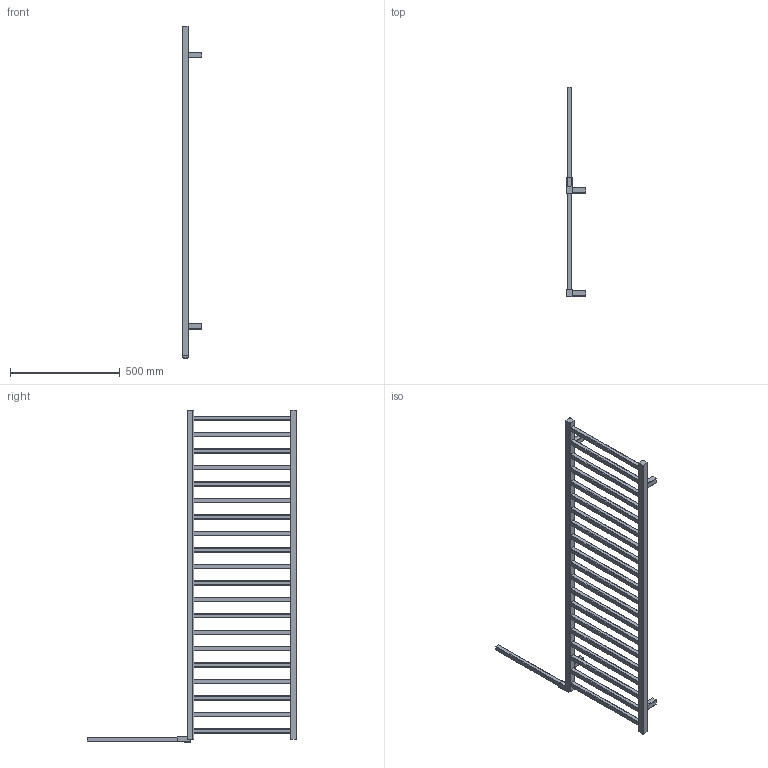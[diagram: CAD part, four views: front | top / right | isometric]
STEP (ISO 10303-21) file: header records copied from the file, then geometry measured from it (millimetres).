
FILE_DESCRIPTION( ( 'Unknown' ), '1' );
FILE_NAME( 'D:/Alplast sp. j/Witryna zespoBu - Projekty/Archiwum/Grzejniki Archiwum/Projekty/DESIGN PROGRAM/LIVIA/LIVIA 3.stp', 'Unknown', ( 'Unknown' ), ( 'Unknown' ), 'PSStep 10.1', 'Unknown', ' ' );
FILE_SCHEMA( ( 'AUTOMOTIVE_DESIGN { 1 0 10303 214 1 1 1 1 }' ) );
Length unit declared in the file: millimetre
Products named in the file (4): Assem1; kana³; uchwyt; kolektor LIVIA 3
Bounding box: 90 x 955 x 1512.5 mm (x, y, z)
Volume: 7755814.5 mm3; surface area: 1401728.1 mm2
Topology: 29 solids, 29 shells, 590 faces, 1416 edges, 944 vertices
Faces by surface type: plane 474, cylinder 116
Entity records: 4967 total; most frequent: CARTESIAN_POINT 677, DIRECTION 650, ORIENTED_EDGE 624, EDGE_CURVE 312, LINE 288, VECTOR 288, VERTEX_POINT 208, AXIS2_PLACEMENT_3D 181
